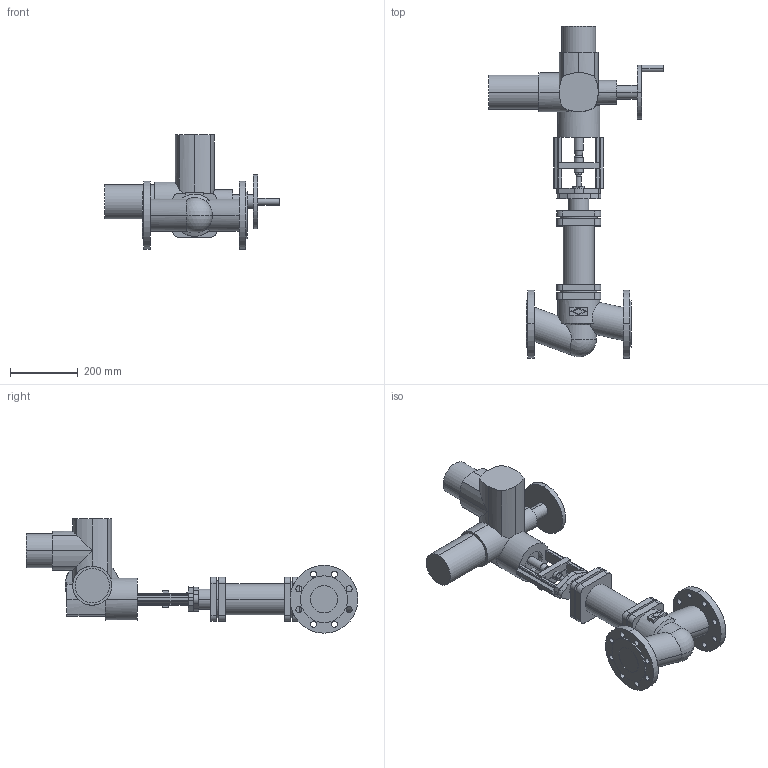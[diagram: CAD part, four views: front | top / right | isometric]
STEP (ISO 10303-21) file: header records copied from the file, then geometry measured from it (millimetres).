
FILE_DESCRIPTION(('OneSpaceDesigner STEP Export'),'2;1');
FILE_NAME('c000003143.stp','2007-01-19T11:42:57',(''),(''),'OneSpace Designer STEP processor for AP214 (Solid Model)','OneSpace Designer 14.00B 27-May-2006 (C) CoCreate Software GmbH','');
FILE_SCHEMA(('AUTOMOTIVE_DESIGN { 1 0 10303 214 1 1 1 1 }'));
Length unit declared in the file: millimetre
Products named in the file (2): 1; 2
Bounding box: 514 x 977.7 x 337 mm (x, y, z)
Volume: 15336661.7 mm3; surface area: 877893.7 mm2
Topology: 2 solids, 2 shells, 317 faces, 820 edges, 527 vertices
Faces by surface type: cylinder 166, plane 143, cone 6, sphere 2
Entity records: 10305 total; most frequent: CARTESIAN_POINT 2113, ORIENTED_EDGE 1636, DIRECTION 1393, SURFACE_CURVE 818, EDGE_CURVE 818, VERTEX_POINT 527, AXIS2_PLACEMENT_3D 472, VECTOR 449
